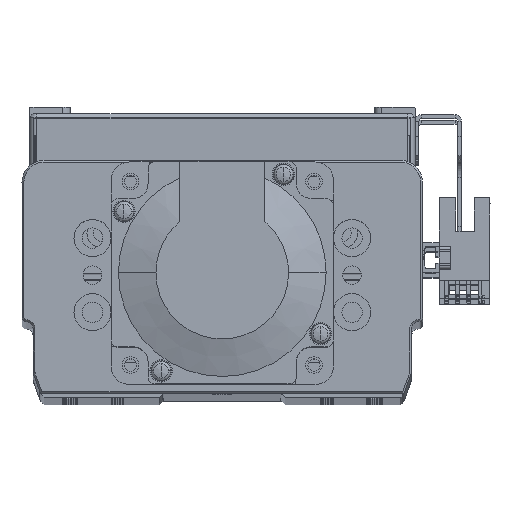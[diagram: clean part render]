
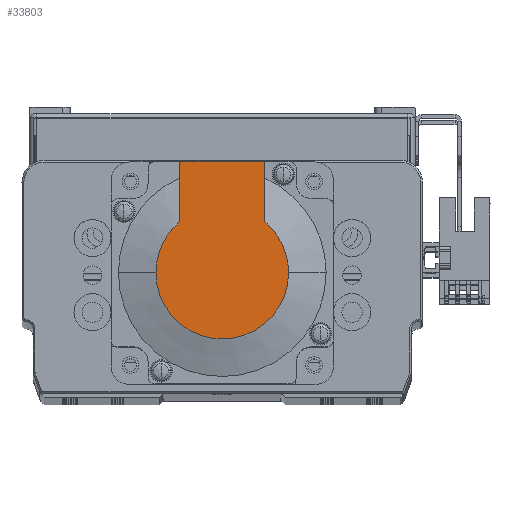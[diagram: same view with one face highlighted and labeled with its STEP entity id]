
A CAD part, top view. The second image highlights one B-rep face of the part: STEP entity #33803.
In plain terms, the highlighted planar face has unit normal (0, 0, 1) as drawn and (-1, 0, 0) by its records, which use the part's own axes.
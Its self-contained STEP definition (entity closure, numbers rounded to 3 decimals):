
#897 = EDGE_CURVE ( 'NONE', #7867, #50946, #55213, .T. ) ;
#1398 = VERTEX_POINT ( 'NONE', #12315 ) ;
#2274 = VECTOR ( 'NONE', #7833, 1000. ) ;
#3653 = AXIS2_PLACEMENT_3D ( 'NONE', #23429, #55863, #18162 ) ;
#4635 = CIRCLE ( 'NONE', #57663, 17.881 ) ;
#6708 = EDGE_LOOP ( 'NONE', ( #52344, #18710, #44103, #25485, #46617, #57907 ) ) ;
#6791 = CIRCLE ( 'NONE', #3653, 17.881 ) ;
#7510 = LINE ( 'NONE', #16282, #52425 ) ;
#7833 = DIRECTION ( 'NONE',  ( 0., -1., 0. ) ) ;
#7867 = VERTEX_POINT ( 'NONE', #35798 ) ;
#8623 = DIRECTION ( 'NONE',  ( -1., 0., 0. ) ) ;
#10104 = CARTESIAN_POINT ( 'NONE',  ( -99., 0., -17.881 ) ) ;
#10588 = CIRCLE ( 'NONE', #49690, 17.881 ) ;
#12315 = CARTESIAN_POINT ( 'NONE',  ( -99., 30., 11.45 ) ) ;
#15530 = CARTESIAN_POINT ( 'NONE',  ( -99., 13.735, -11.45 ) ) ;
#16282 = CARTESIAN_POINT ( 'NONE',  ( -99., 30., 25. ) ) ;
#16651 = DIRECTION ( 'NONE',  ( 0., 0., -1. ) ) ;
#16692 = DIRECTION ( 'NONE',  ( 0., 0., 1. ) ) ;
#17259 = VERTEX_POINT ( 'NONE', #10104 ) ;
#17368 = DIRECTION ( 'NONE',  ( 0., 0., -1. ) ) ;
#18015 = CARTESIAN_POINT ( 'NONE',  ( -99., -8.941, -11.45 ) ) ;
#18162 = DIRECTION ( 'NONE',  ( 0., 0., -1. ) ) ;
#18211 = CARTESIAN_POINT ( 'NONE',  ( -99., 0., 17.881 ) ) ;
#18710 = ORIENTED_EDGE ( 'NONE', *, *, #21451, .T. ) ;
#21284 = CARTESIAN_POINT ( 'NONE',  ( -99., 0., 0. ) ) ;
#21330 = EDGE_CURVE ( 'NONE', #17259, #55225, #4635, .T. ) ;
#21451 = EDGE_CURVE ( 'NONE', #50946, #17259, #6791, .T. ) ;
#23217 = AXIS2_PLACEMENT_3D ( 'NONE', #59471, #31704, #59272 ) ;
#23429 = CARTESIAN_POINT ( 'NONE',  ( -99., 0., 0. ) ) ;
#25485 = ORIENTED_EDGE ( 'NONE', *, *, #34134, .T. ) ;
#28820 = FACE_OUTER_BOUND ( 'NONE', #6708, .T. ) ;
#31704 = DIRECTION ( 'NONE',  ( -1., 0., 0. ) ) ;
#33803 = ADVANCED_FACE ( 'NONE', ( #28820 ), #49743, .T. ) ;
#34134 = EDGE_CURVE ( 'NONE', #55225, #44281, #10588, .T. ) ;
#35261 = CARTESIAN_POINT ( 'NONE',  ( -99., 0., 11.45 ) ) ;
#35798 = CARTESIAN_POINT ( 'NONE',  ( -99., 30., -11.45 ) ) ;
#38562 = VECTOR ( 'NONE', #50672, 1000. ) ;
#38656 = LINE ( 'NONE', #35261, #2274 ) ;
#44103 = ORIENTED_EDGE ( 'NONE', *, *, #21330, .T. ) ;
#44281 = VERTEX_POINT ( 'NONE', #45637 ) ;
#45530 = CARTESIAN_POINT ( 'NONE',  ( -99., 0., 0. ) ) ;
#45637 = CARTESIAN_POINT ( 'NONE',  ( -99., 13.735, 11.45 ) ) ;
#46617 = ORIENTED_EDGE ( 'NONE', *, *, #47480, .F. ) ;
#47480 = EDGE_CURVE ( 'NONE', #1398, #44281, #38656, .T. ) ;
#49291 = DIRECTION ( 'NONE',  ( -1., 0., 0. ) ) ;
#49690 = AXIS2_PLACEMENT_3D ( 'NONE', #21284, #49291, #16651 ) ;
#49743 = PLANE ( 'NONE',  #23217 ) ;
#50302 = EDGE_CURVE ( 'NONE', #7867, #1398, #7510, .T. ) ;
#50672 = DIRECTION ( 'NONE',  ( 0., -1., 0. ) ) ;
#50946 = VERTEX_POINT ( 'NONE', #15530 ) ;
#52344 = ORIENTED_EDGE ( 'NONE', *, *, #897, .T. ) ;
#52425 = VECTOR ( 'NONE', #16692, 1000. ) ;
#55213 = LINE ( 'NONE', #18015, #38562 ) ;
#55225 = VERTEX_POINT ( 'NONE', #18211 ) ;
#55863 = DIRECTION ( 'NONE',  ( -1., 0., 0. ) ) ;
#57663 = AXIS2_PLACEMENT_3D ( 'NONE', #45530, #8623, #17368 ) ;
#57907 = ORIENTED_EDGE ( 'NONE', *, *, #50302, .F. ) ;
#59272 = DIRECTION ( 'NONE',  ( 0., 0., 1. ) ) ;
#59471 = CARTESIAN_POINT ( 'NONE',  ( -99., -8.941, 0. ) ) ;
